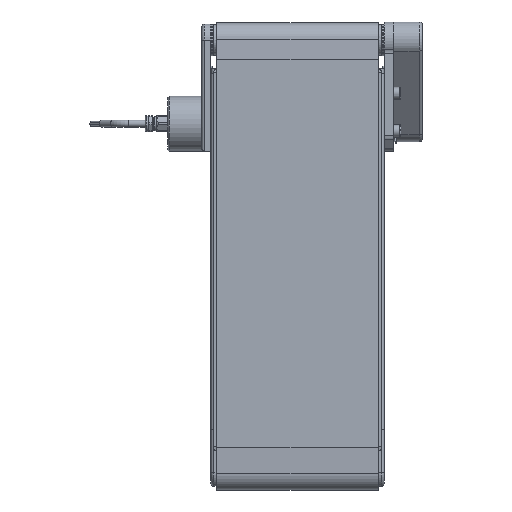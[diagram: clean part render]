
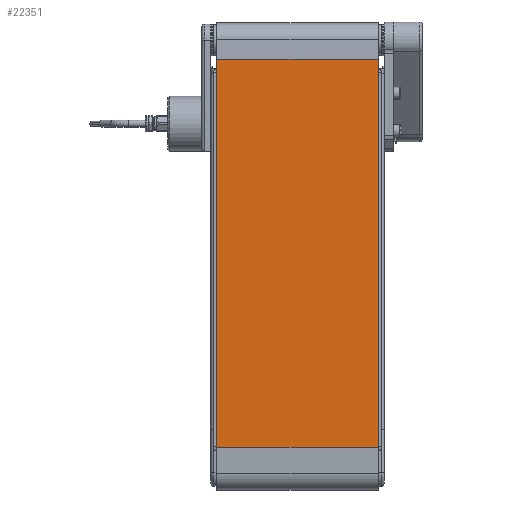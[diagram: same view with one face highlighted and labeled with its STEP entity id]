
A CAD part, left-side view. The second image highlights one B-rep face of the part: STEP entity #22351.
In plain terms, the highlighted planar face has unit normal (-1, 0, 0).
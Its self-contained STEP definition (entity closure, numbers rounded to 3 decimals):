
#1220=PLANE('',#24602);
#2359=FACE_OUTER_BOUND('',#3666,.T.);
#3666=EDGE_LOOP('',(#19389,#19390,#19391,#19392));
#5339=LINE('',#38952,#7009);
#5346=LINE('',#38967,#7016);
#5347=LINE('',#38970,#7017);
#5348=LINE('',#38971,#7018);
#7009=VECTOR('',#30595,10.);
#7016=VECTOR('',#30610,10.);
#7017=VECTOR('',#30613,10.);
#7018=VECTOR('',#30614,10.);
#10238=VERTEX_POINT('',#38949);
#10239=VERTEX_POINT('',#38951);
#10243=VERTEX_POINT('',#38965);
#10244=VERTEX_POINT('',#38969);
#13308=EDGE_CURVE('',#10238,#10239,#5339,.T.);
#13316=EDGE_CURVE('',#10238,#10243,#5346,.T.);
#13317=EDGE_CURVE('',#10244,#10243,#5347,.T.);
#13318=EDGE_CURVE('',#10239,#10244,#5348,.T.);
#19389=ORIENTED_EDGE('',*,*,#13316,.T.);
#19390=ORIENTED_EDGE('',*,*,#13317,.F.);
#19391=ORIENTED_EDGE('',*,*,#13318,.F.);
#19392=ORIENTED_EDGE('',*,*,#13308,.F.);
#22351=ADVANCED_FACE('',(#2359),#1220,.T.);
#24602=AXIS2_PLACEMENT_3D('',#38968,#30611,#30612);
#30595=DIRECTION('',(0.,0.,-1.));
#30610=DIRECTION('',(0.,1.,0.));
#30611=DIRECTION('center_axis',(-1.,0.,0.));
#30612=DIRECTION('ref_axis',(0.,0.,
1.));
#30613=DIRECTION('',(0.,0.,1.));
#30614=DIRECTION('',(0.,1.,0.));
#38949=CARTESIAN_POINT('',(-12.5,-6.,133.219));
#38951=CARTESIAN_POINT('',(-12.5,-6.,-135.814));
#38952=CARTESIAN_POINT('',(-12.5,-6.,-135.814));
#38965=CARTESIAN_POINT('',(-12.5,106.,133.219));
#38967=CARTESIAN_POINT('',(-12.5,50.,133.219));
#38968=CARTESIAN_POINT('Origin',(-12.5,50.,-135.814));
#38969=CARTESIAN_POINT('',(-12.5,106.,-135.814));
#38970=CARTESIAN_POINT('',(-12.5,106.,-135.814));
#38971=CARTESIAN_POINT('',(-12.5,50.,-135.814));
